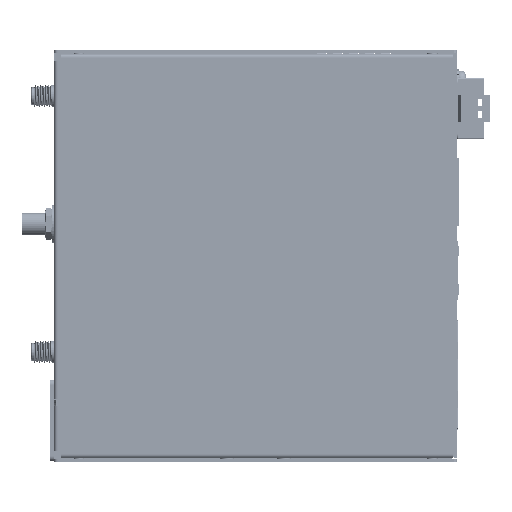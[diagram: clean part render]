
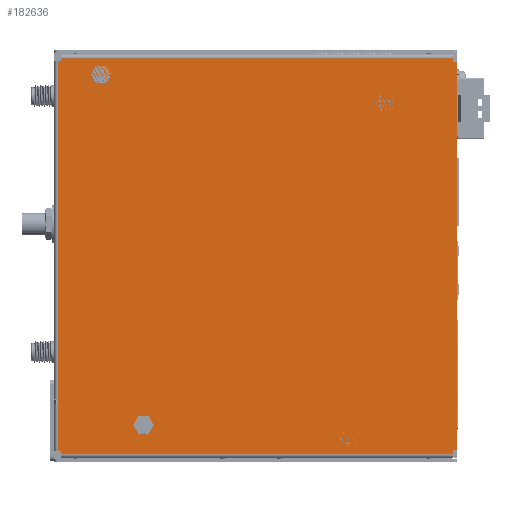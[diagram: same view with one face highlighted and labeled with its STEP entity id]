
A CAD part, left-side view. The second image highlights one B-rep face of the part: STEP entity #182636.
In plain terms, the highlighted planar face has unit normal (-1, 0, 0) as drawn and (0, -1, 0) by its records, which use the part's own axes.
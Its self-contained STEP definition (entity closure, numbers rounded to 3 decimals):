
#4051 = CARTESIAN_POINT ( 'NONE',  ( 1., 0., 0. ) ) ;
#15732 = VERTEX_POINT ( 'NONE', #396107 ) ;
#22526 = VERTEX_POINT ( 'NONE', #339859 ) ;
#40897 = AXIS2_PLACEMENT_3D ( 'NONE', #450404, #355702, #539264 ) ;
#43119 = LINE ( 'NONE', #226905, #465470 ) ;
#49631 = VECTOR ( 'NONE', #234270, 1000. ) ;
#53386 = CARTESIAN_POINT ( 'NONE',  ( 0., 0., -112.5 ) ) ;
#63428 = CARTESIAN_POINT ( 'NONE',  ( 0., 0., -1.2 ) ) ;
#70758 = LINE ( 'NONE', #204184, #163144 ) ;
#72258 = DIRECTION ( 'NONE',  ( -1., 0., 0. ) ) ;
#73440 = VECTOR ( 'NONE', #194956, 1000. ) ;
#74018 = VERTEX_POINT ( 'NONE', #350653 ) ;
#80002 = PLANE ( 'NONE',  #40897 ) ;
#82265 = DIRECTION ( 'NONE',  ( 1., 0., 0. ) ) ;
#85860 = FACE_OUTER_BOUND ( 'NONE', #585512, .T. ) ;
#107863 = VERTEX_POINT ( 'NONE', #498559 ) ;
#116562 = LINE ( 'NONE', #63428, #329859 ) ;
#117090 = VERTEX_POINT ( 'NONE', #453977 ) ;
#120763 = CARTESIAN_POINT ( 'NONE',  ( 0., 0., -111.5 ) ) ;
#123114 = EDGE_CURVE ( 'NONE', #181718, #398175, #116562, .T. ) ;
#126998 = CARTESIAN_POINT ( 'NONE',  ( 0., 0., -1.2 ) ) ;
#131834 = DIRECTION ( 'NONE',  ( 0., 0., -1. ) ) ;
#155867 = VECTOR ( 'NONE', #82265, 1000. ) ;
#158279 = LINE ( 'NONE', #256114, #338490 ) ;
#163144 = VECTOR ( 'NONE', #331806, 1000. ) ;
#171196 = ORIENTED_EDGE ( 'NONE', *, *, #172392, .T. ) ;
#172004 = LINE ( 'NONE', #261081, #292746 ) ;
#172392 = EDGE_CURVE ( 'NONE', #197951, #181718, #158279, .T. ) ;
#181718 = VERTEX_POINT ( 'NONE', #440835 ) ;
#182636 = ADVANCED_FACE ( 'NONE', ( #85860 ), #80002, .T. ) ;
#184873 = DIRECTION ( 'NONE',  ( 0., 0., 1. ) ) ;
#190731 = ORIENTED_EDGE ( 'NONE', *, *, #475239, .F. ) ;
#194956 = DIRECTION ( 'NONE',  ( 0., 0., 1. ) ) ;
#197951 = VERTEX_POINT ( 'NONE', #539423 ) ;
#204184 = CARTESIAN_POINT ( 'NONE',  ( 0., 0., -112.5 ) ) ;
#204318 = EDGE_CURVE ( 'NONE', #197951, #212952, #268713, .T. ) ;
#204650 = DIRECTION ( 'NONE',  ( 1., 0., 0. ) ) ;
#212952 = VERTEX_POINT ( 'NONE', #530732 ) ;
#214485 = CARTESIAN_POINT ( 'NONE',  ( 1., 0., -1.2 ) ) ;
#225515 = CARTESIAN_POINT ( 'NONE',  ( 2., 0., -112.5 ) ) ;
#226905 = CARTESIAN_POINT ( 'NONE',  ( 112.6, 0., 0. ) ) ;
#227410 = VECTOR ( 'NONE', #415952, 1000. ) ;
#234270 = DIRECTION ( 'NONE',  ( -1., 0., 0. ) ) ;
#234378 = EDGE_CURVE ( 'NONE', #15732, #22526, #172004, .T. ) ;
#234512 = ORIENTED_EDGE ( 'NONE', *, *, #385808, .T. ) ;
#236187 = VECTOR ( 'NONE', #204650, 1000. ) ;
#255724 = VECTOR ( 'NONE', #184873, 1000. ) ;
#256114 = CARTESIAN_POINT ( 'NONE',  ( 2.2, 0., 0. ) ) ;
#256120 = EDGE_CURVE ( 'NONE', #259343, #117090, #421788, .T. ) ;
#259343 = VERTEX_POINT ( 'NONE', #473924 ) ;
#261081 = CARTESIAN_POINT ( 'NONE',  ( 99.15, 0., -112.5 ) ) ;
#262220 = ORIENTED_EDGE ( 'NONE', *, *, #464022, .T. ) ;
#268713 = LINE ( 'NONE', #443645, #572485 ) ;
#270649 = ORIENTED_EDGE ( 'NONE', *, *, #337306, .T. ) ;
#278152 = LINE ( 'NONE', #506298, #73440 ) ;
#290721 = CARTESIAN_POINT ( 'NONE',  ( 0., 0., -111.5 ) ) ;
#292746 = VECTOR ( 'NONE', #495043, 1000. ) ;
#299266 = DIRECTION ( 'NONE',  ( -1., 0., 0. ) ) ;
#299982 = EDGE_CURVE ( 'NONE', #424760, #398175, #585195, .T. ) ;
#329859 = VECTOR ( 'NONE', #72258, 1000. ) ;
#331612 = ORIENTED_EDGE ( 'NONE', *, *, #524857, .T. ) ;
#331806 = DIRECTION ( 'NONE',  ( -1., 0., 0. ) ) ;
#335195 = LINE ( 'NONE', #290721, #236187 ) ;
#337306 = EDGE_CURVE ( 'NONE', #117090, #392825, #396643, .T. ) ;
#338490 = VECTOR ( 'NONE', #519894, 1000. ) ;
#339859 = CARTESIAN_POINT ( 'NONE',  ( 97.15, 0., -112.5 ) ) ;
#350653 = CARTESIAN_POINT ( 'NONE',  ( 111.4, 0., -1.2 ) ) ;
#355702 = DIRECTION ( 'NONE',  ( 0., -1., 0. ) ) ;
#357343 = CARTESIAN_POINT ( 'NONE',  ( 2., 0., 0. ) ) ;
#371459 = CARTESIAN_POINT ( 'NONE',  ( 111.6, 0., 0. ) ) ;
#372244 = VECTOR ( 'NONE', #131834, 1000. ) ;
#385808 = EDGE_CURVE ( 'NONE', #523663, #449388, #549674, .T. ) ;
#392825 = VERTEX_POINT ( 'NONE', #454077 ) ;
#396107 = CARTESIAN_POINT ( 'NONE',  ( 99.15, 0., -112.5 ) ) ;
#396643 = LINE ( 'NONE', #120763, #155867 ) ;
#398175 = VERTEX_POINT ( 'NONE', #214485 ) ;
#398183 = ORIENTED_EDGE ( 'NONE', *, *, #204318, .F. ) ;
#399284 = DIRECTION ( 'NONE',  ( 1., 0., 0. ) ) ;
#399431 = EDGE_CURVE ( 'NONE', #22526, #449388, #459556, .T. ) ;
#403221 = ORIENTED_EDGE ( 'NONE', *, *, #123114, .T. ) ;
#406864 = ORIENTED_EDGE ( 'NONE', *, *, #234378, .F. ) ;
#407795 = DIRECTION ( 'NONE',  ( 0., 0., -1. ) ) ;
#410587 = CARTESIAN_POINT ( 'NONE',  ( 1., 0., -111.5 ) ) ;
#415952 = DIRECTION ( 'NONE',  ( 0., 0., 1. ) ) ;
#417126 = VECTOR ( 'NONE', #299266, 1000. ) ;
#421788 = LINE ( 'NONE', #371459, #227410 ) ;
#424760 = VERTEX_POINT ( 'NONE', #410587 ) ;
#438075 = ORIENTED_EDGE ( 'NONE', *, *, #399431, .F. ) ;
#440835 = CARTESIAN_POINT ( 'NONE',  ( 2.2, 0., -1.2 ) ) ;
#442377 = ORIENTED_EDGE ( 'NONE', *, *, #299982, .F. ) ;
#443645 = CARTESIAN_POINT ( 'NONE',  ( 0., 0., 0. ) ) ;
#449388 = VERTEX_POINT ( 'NONE', #225515 ) ;
#450404 = CARTESIAN_POINT ( 'NONE',  ( 0., 0., 0. ) ) ;
#453977 = CARTESIAN_POINT ( 'NONE',  ( 111.6, 0., -111.5 ) ) ;
#454077 = CARTESIAN_POINT ( 'NONE',  ( 112.6, 0., -111.5 ) ) ;
#459556 = LINE ( 'NONE', #53386, #49631 ) ;
#464022 = EDGE_CURVE ( 'NONE', #424760, #523663, #335195, .T. ) ;
#465394 = CARTESIAN_POINT ( 'NONE',  ( 2., 0., -111.5 ) ) ;
#465470 = VECTOR ( 'NONE', #407795, 1000. ) ;
#466108 = EDGE_CURVE ( 'NONE', #107863, #392825, #43119, .T. ) ;
#473924 = CARTESIAN_POINT ( 'NONE',  ( 111.6, 0., -112.5 ) ) ;
#475239 = EDGE_CURVE ( 'NONE', #259343, #15732, #70758, .T. ) ;
#495043 = DIRECTION ( 'NONE',  ( -1., 0., 0. ) ) ;
#498559 = CARTESIAN_POINT ( 'NONE',  ( 112.6, 0., -1.2 ) ) ;
#504818 = ORIENTED_EDGE ( 'NONE', *, *, #466108, .F. ) ;
#506298 = CARTESIAN_POINT ( 'NONE',  ( 111.4, 0., 0. ) ) ;
#519894 = DIRECTION ( 'NONE',  ( 0., 0., -1. ) ) ;
#523663 = VERTEX_POINT ( 'NONE', #465394 ) ;
#524857 = EDGE_CURVE ( 'NONE', #74018, #212952, #278152, .T. ) ;
#530732 = CARTESIAN_POINT ( 'NONE',  ( 111.4, 0., 0. ) ) ;
#533073 = LINE ( 'NONE', #126998, #417126 ) ;
#539264 = DIRECTION ( 'NONE',  ( 0., 0., -1. ) ) ;
#539423 = CARTESIAN_POINT ( 'NONE',  ( 2.2, 0., 0. ) ) ;
#542514 = ORIENTED_EDGE ( 'NONE', *, *, #256120, .T. ) ;
#549674 = LINE ( 'NONE', #357343, #372244 ) ;
#572485 = VECTOR ( 'NONE', #399284, 1000. ) ;
#579162 = EDGE_CURVE ( 'NONE', #107863, #74018, #533073, .T. ) ;
#585171 = ORIENTED_EDGE ( 'NONE', *, *, #579162, .T. ) ;
#585195 = LINE ( 'NONE', #4051, #255724 ) ;
#585512 = EDGE_LOOP ( 'NONE', ( #504818, #585171, #331612, #398183, #171196, #403221, #442377, #262220, #234512, #438075, #406864, #190731, #542514, #270649 ) ) ;
